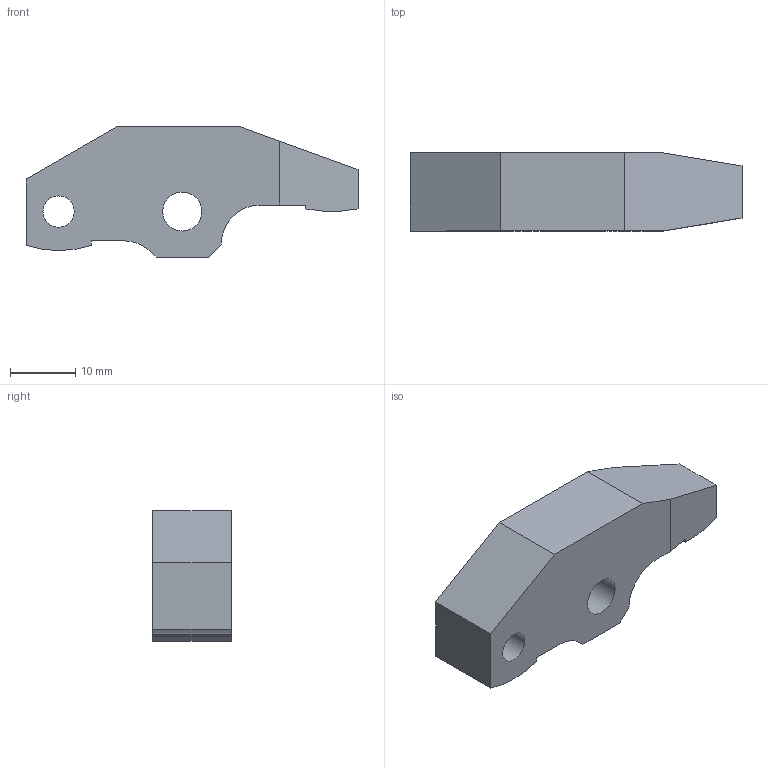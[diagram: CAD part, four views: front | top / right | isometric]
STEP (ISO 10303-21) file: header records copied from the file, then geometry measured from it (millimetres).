
FILE_DESCRIPTION( ( '' ), '1' );
FILE_NAME( 'W:/Catalogue/JLF5H/JLF5H_OPTION/JLF5H28_ClampArm.stp', '2008-05-26T02:48:28', ( '機械事業部産業機器グループ' ), ( '豊和工業株式会社' ), 'XStep 1.0', ' ', ' ' );
FILE_SCHEMA( ( 'CONFIG_CONTROL_DESIGN' ) );
Length unit declared in the file: millimetre
Products named in the file (1): 1
Bounding box: 51 x 12 x 20 mm (x, y, z)
Volume: 7857.6 mm3; surface area: 3212.6 mm2
Topology: 1 solids, 1 shells, 22 faces, 60 edges, 40 vertices
Faces by surface type: plane 16, cylinder 6
Full cylindrical faces by diameter (mm): 4.8 x1, 6 x1
Entity records: 738 total; most frequent: CARTESIAN_POINT 121, DIRECTION 116, ORIENTED_EDGE 116, EDGE_CURVE 58, LINE 46, VECTOR 46, VERTEX_POINT 40, AXIS2_PLACEMENT_3D 35
